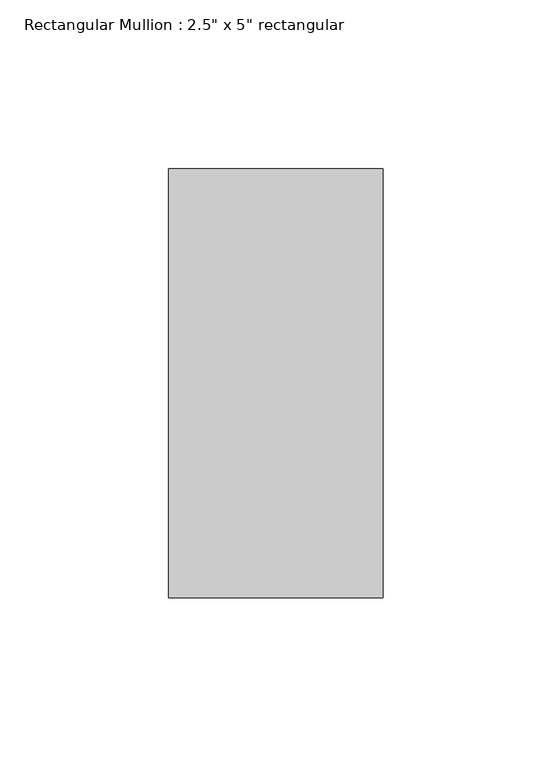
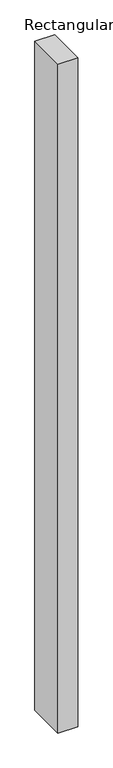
"""IFC4 building model written with IfcOpenShell, lengths in millimetres: member geometry."""

from ifc_helpers import new_model, si_unit, frame, origin, place, context, project, spatial, polyline, outline, extrude, source, transform, mapped, element, save


def member_cc4f8265(model_context):
    return source(origin(), model_context, "Body", "SweptSolid", [
        extrude(outline(polyline([(0.0, 63.5), (0.0, -63.5), (-63.5, -63.5), (-63.5, 63.5), (0.0, 63.5)])), frame((0.0, 0.0, -2261.6), z_axis=(0.0, 0.0, 1.0), x_axis=(1.0, 0.0, 0.0)), (0.0, 0.0, 1.0), 2261.6),
    ])


if __name__ == "__main__":
    model = new_model("IFC4")
    model_context = context("Model", 3, world=origin())
    ifc_project = project(units=[si_unit("LENGTHUNIT", "METRE", prefix="MILLI")], contexts=[model_context])
    site = spatial("IfcSite", under=ifc_project)
    building = spatial("IfcBuilding", under=site)
    placement = place(None, origin())
    member_shape = member_cc4f8265(model_context)
    element("IfcMember", 1, ObjectType="Rectangular Mullion : 2.5\" x 5\" rectangular", at=placement, inside=building, context=model_context, shape_type="MappedRepresentation", body=[
        mapped(member_shape, transform((0.0, 0.0, 0.0), x_axis=(1.0, 0.0, 0.0), y_axis=(0.0, 1.0, 0.0), z_axis=(0.0, 0.0, 1.0))),
    ])
    save(model, "model.ifc")
